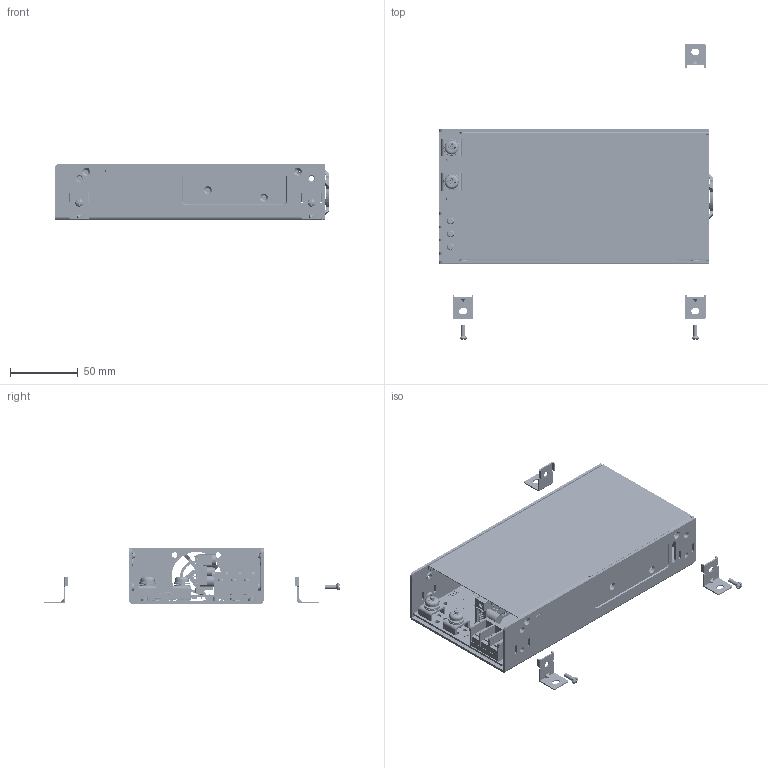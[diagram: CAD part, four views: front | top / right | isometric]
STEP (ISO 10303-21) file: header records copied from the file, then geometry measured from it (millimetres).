
FILE_DESCRIPTION(('Creo Elements/Direct Modeling STEP Export'),'2;1');
FILE_NAME('NSP-500.stp','2025-09-09T18:24:31',(''),(''),'Creo Elements/Direct Modeling STEP processor for AP214 (Solid Model)','Creo Elements/Direct Modeling 19.0G 27-Nov-2017 (C) Parametric Technology GmbH','');
FILE_SCHEMA(('AUTOMOTIVE_DESIGN { 1 0 10303 214 1 1 1 1 }'));
Length unit declared in the file: millimetre
Products named in the file (814): P3_1_1.PRT; 4ASS4-6R0-12N_1_1.PRT; 4ASS4-6R0-12N_1_2.PRT; 4ASS4-6R0-12N_1.ASM; TB1_AF0_ASM_1.ASM.1.1; TB2_AF0_ASM_1.ASM.1.1.1; NSP-500_ASM_19_ASM.ASM; NSP-500_ASM_19.ASM; NSP-500.stp; MHS012.prt; MHS012.stp; MHS012.stp.1; MHS012.stp.1.1; MHS012.stp.1.1.1; SCREW_DIN_964_-_M3_X_10-4860.PRT; SCREW_DIN_964_-_M3_X_10-5210.ASM; __M3__.stp; __M3__.stp.1; 固定片.1; M3-7L_1_1.PRT.6; M3-7L_1_1.PRT.6.1; M3-7L_1_1.PRT.6.1.1; M3-7L_1_1.PRT.6.2.1; 铜柱; NSP-500-D_10.PRT; 下盖; NSP-500-T_16_PRT.PRT; 上下盖; 装配1; 1EE4-T25-EM11-03_1.PRT; NSP-320A-1106_2.PRT; BOARD.PRT; 2CDX-SMA.PRT; D118.ASM; D117.ASM; EXTRUDED-48391.PRT; 940785248.ASM; EXTRUDED-48768.PRT; 940785408.ASM; EXTRUDED-49140.PRT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
Assembly tree (1295 placements, depth 11):
  NSP-500
    ___.stp
      FT-63EP_1-704230_PRT-8990.ASM
        FT-63EP_1-704230_PRT-8650.PRT
    NSP-500B-R0X.step
      PCB.ASM
        U104.ASM
          2CUX-SOIC-14.PRT
        D120.ASM
          105391808.ASM
            EXTRUDED-330234.PRT
        CN3.ASM
          105391968.ASM.38  x6
            EXTRUDED-6192.PRT
          105392128.ASM.16  x6
            EXTRUDED-5820.PRT
          105392288.ASM.15  x6
            EXTRUDED-5448.PRT
        R133.ASM
          836657576.ASM
            836657576_4.PRT
            836657576_3.PRT
            836657576_2.PRT
            836657576_1.PRT
        R139.ASM
          836656968.ASM
            836656968_4.PRT
            836656968_3.PRT
            836656968_2.PRT
            836656968_1.PRT
        R129.ASM
          836656968.ASM
            836656968_4.PRT
            836656968_3.PRT
            836656968_2.PRT
            836656968_1.PRT
        R123.ASM
          836657272.ASM
            836657272_4.PRT
            836657272_3.PRT
            836657272_2.PRT
            836657272_1.PRT
        R130.ASM
          836656968.ASM
            836656968_4.PRT
            836656968_3.PRT
            836656968_2.PRT
            836656968_1.PRT
        R141.ASM
          836664720.ASM
            836664720_4.PRT
            836664720_3.PRT
            836664720_2.PRT
            836664720_1.PRT
        R121.ASM
          836661832.ASM
            836661832_4.PRT
            836661832_3.PRT
            836661832_2.PRT
            836661832_1.PRT
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Bounding box: 202 x 218.6 x 41 mm (x, y, z)
Volume: 136294.9 mm3; surface area: 186780.8 mm2
Topology: 1086 solids, 1086 shells, 27871 faces, 72447 edges, 47415 vertices
Faces by surface type: plane 15529, extrusion 7315, cylinder 3666, sphere 901, torus 346, cone 108, bspline 6
Entity records: 323008 total; most frequent: CARTESIAN_POINT 96737, ORIENTED_EDGE 36954, DIRECTION 33907, EDGE_CURVE 18477, VECTOR 13401, LINE 12260, VERTEX_POINT 12153, AXIS2_PLACEMENT_3D 10253
